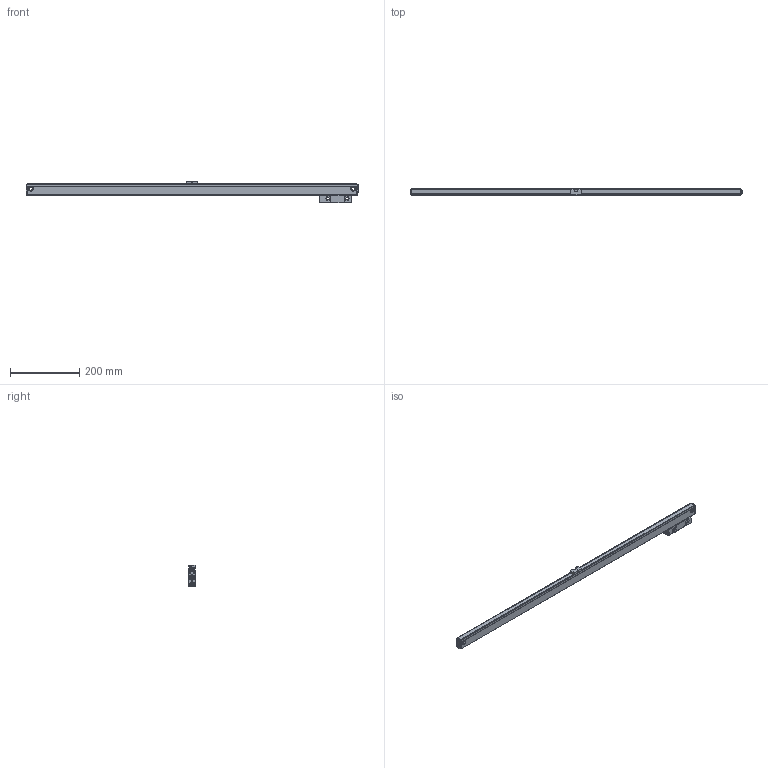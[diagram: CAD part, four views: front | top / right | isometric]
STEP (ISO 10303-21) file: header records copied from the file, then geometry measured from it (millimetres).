
FILE_DESCRIPTION(('Creo Elements/Direct Modeling STEP Export'),'2;1');
FILE_NAME('S-820.stp','2011-12-14T11:59:31',(''),(''),'Creo Elements/Direct Modeling STEP processor for AP214 (Solid Model)','Creo Elements/Direct Modeling 17.0C 05-Feb-2011 (C) Parametric Technology GmbH','');
FILE_SCHEMA(('AUTOMOTIVE_DESIGN { 1 0 10303 214 1 1 1 1 }'));
Length unit declared in the file: millimetre
Products named in the file (4): PERFIL_S; SOPORTE_INTERMEDIO_S; CABEZA_S; S_820
Assembly tree (3 placements, depth 2):
  S_820
    CABEZA_S
    SOPORTE_INTERMEDIO_S
    PERFIL_S
Bounding box: 962 x 18 x 61.71 mm (x, y, z)
Volume: 881813.8 mm3; surface area: 280910.8 mm2
Topology: 15 solids, 25 shells, 762 faces, 1909 edges, 1209 vertices
Faces by surface type: plane 311, cylinder 296, cone 109, torus 32, sphere 12, bspline 2
Entity records: 25705 total; most frequent: CARTESIAN_POINT 4825, ORIENTED_EDGE 3830, DIRECTION 3607, EDGE_CURVE 1891, AXIS2_PLACEMENT_3D 1274, VERTEX_POINT 1209, VECTOR 1059, LINE 1059
